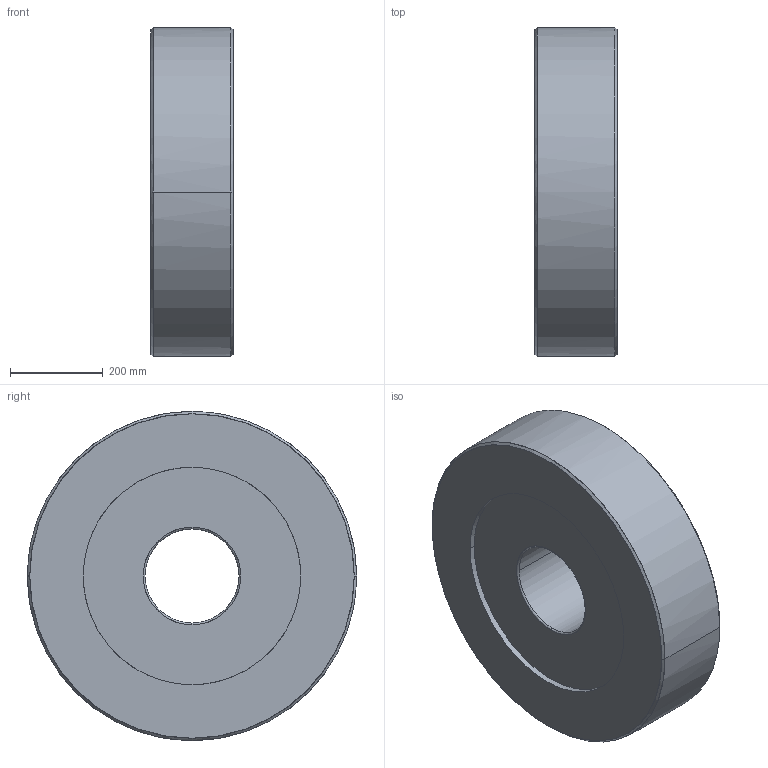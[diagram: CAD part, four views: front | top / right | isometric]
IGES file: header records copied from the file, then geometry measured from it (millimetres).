
Global section: native system: Kubotek KeyCreator; preprocessor: KCM Version 1.1.1442.0; author: KeyCreator User; organization: Self; date: 20170713.075046; units: inch
Bounding box: 177.8 x 711.2 x 711.2 mm (x, y, z)
Surface area: 1246563.6 mm2 (no closed solid volume)
Topology: 0 solids, 0 shells, 20 faces, 128 edges, 128 vertices
Faces by surface type: bspline 20
